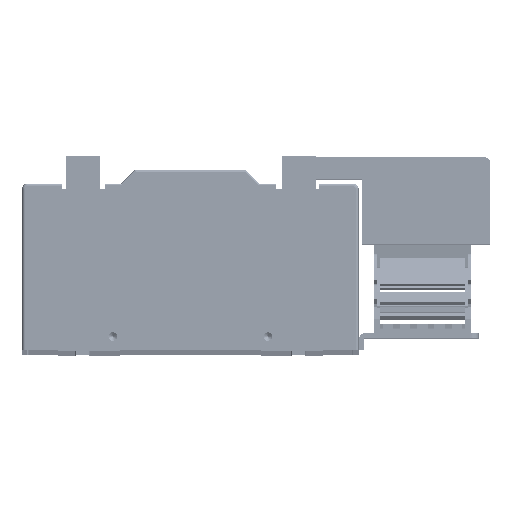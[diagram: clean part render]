
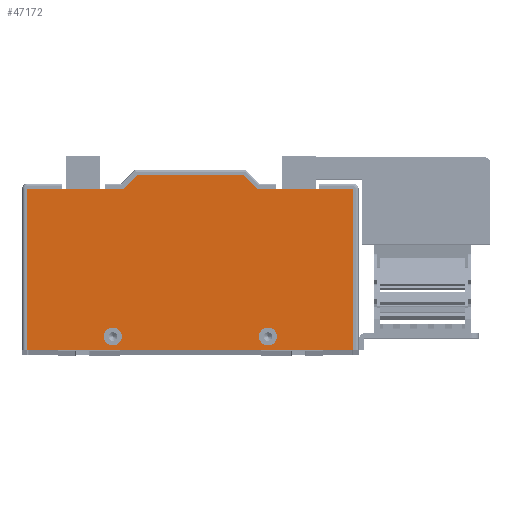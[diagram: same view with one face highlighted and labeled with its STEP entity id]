
A CAD part, top view. The second image highlights one B-rep face of the part: STEP entity #47172.
In plain terms, the highlighted planar face has unit normal (0, 0, 1) as drawn and (0, 0, -1) by its records, which use the part's own axes.
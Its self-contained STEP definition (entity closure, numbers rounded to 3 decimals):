
#46512 = VERTEX_POINT ( 'NONE', #131476 ) ;
#46514 = EDGE_CURVE ( 'NONE', #46512, #46515, #131473, .T. ) ;
#46515 = VERTEX_POINT ( 'NONE', #131464 ) ;
#46641 = ORIENTED_EDGE ( 'NONE', *, *, #46642, .F. ) ;
#46642 = EDGE_CURVE ( 'NONE', #46795, #46851, #131982, .T. ) ;
#46643 = ORIENTED_EDGE ( 'NONE', *, *, #46807, .T. ) ;
#46644 = ORIENTED_EDGE ( 'NONE', *, *, #46645, .F. ) ;
#46645 = EDGE_CURVE ( 'NONE', #46646, #46805, #131973, .T. ) ;
#46646 = VERTEX_POINT ( 'NONE', #131966 ) ;
#46647 = ORIENTED_EDGE ( 'NONE', *, *, #46649, .F. ) ;
#46649 = EDGE_CURVE ( 'NONE', #46729, #46646, #131963, .T. ) ;
#46729 = VERTEX_POINT ( 'NONE', #132211 ) ;
#46744 = VERTEX_POINT ( 'NONE', #132325 ) ;
#46746 = EDGE_CURVE ( 'NONE', #46744, #46747, #132320, .T. ) ;
#46747 = VERTEX_POINT ( 'NONE', #132308 ) ;
#46771 = EDGE_CURVE ( 'NONE', #46773, #46774, #132490, .T. ) ;
#46773 = VERTEX_POINT ( 'NONE', #132483 ) ;
#46774 = VERTEX_POINT ( 'NONE', #132480 ) ;
#46789 = EDGE_CURVE ( 'NONE', #46729, #46773, #132439, .T. ) ;
#46795 = VERTEX_POINT ( 'NONE', #132553 ) ;
#46805 = VERTEX_POINT ( 'NONE', #132511 ) ;
#46807 = EDGE_CURVE ( 'NONE', #46795, #46805, #132505, .T. ) ;
#46812 = EDGE_CURVE ( 'NONE', #46515, #46512, #132614, .T. ) ;
#46814 = EDGE_LOOP ( 'NONE', ( #46905, #46907 ) ) ;
#46820 = ORIENTED_EDGE ( 'NONE', *, *, #46789, .T. ) ;
#46822 = ORIENTED_EDGE ( 'NONE', *, *, #46771, .T. ) ;
#46827 = VERTEX_POINT ( 'NONE', #132578 ) ;
#46830 = EDGE_CURVE ( 'NONE', #46774, #46827, #132698, .T. ) ;
#46846 = ORIENTED_EDGE ( 'NONE', *, *, #46830, .T. ) ;
#46847 = ORIENTED_EDGE ( 'NONE', *, *, #46849, .F. ) ;
#46849 = EDGE_CURVE ( 'NONE', #46851, #46827, #132641, .T. ) ;
#46851 = VERTEX_POINT ( 'NONE', #132759 ) ;
#46903 = ORIENTED_EDGE ( 'NONE', *, *, #46514, .F. ) ;
#46905 = ORIENTED_EDGE ( 'NONE', *, *, #46906, .F. ) ;
#46906 = EDGE_CURVE ( 'NONE', #46747, #46744, #132935, .T. ) ;
#46907 = ORIENTED_EDGE ( 'NONE', *, *, #46746, .F. ) ;
#46908 = EDGE_LOOP ( 'NONE', ( #46846, #46847, #46641, #46643, #46644, #46647, #46820, #46822 ) ) ;
#46985 = EDGE_LOOP ( 'NONE', ( #47173, #46903 ) ) ;
#47172 = ADVANCED_FACE ( 'NONE', ( #133884, #133882, #133879 ), #133877, .F. ) ;
#47173 = ORIENTED_EDGE ( 'NONE', *, *, #46812, .F. ) ;
#131464 = CARTESIAN_POINT ( 'NONE',  ( -130.691, 76.299, 0. ) ) ;
#131466 = DIRECTION ( 'NONE',  ( -1., 0., 0. ) ) ;
#131468 = DIRECTION ( 'NONE',  ( 0., 0., -1. ) ) ;
#131470 = CARTESIAN_POINT ( 'NONE',  ( -125.441, 76.299, 0. ) ) ;
#131471 = AXIS2_PLACEMENT_3D ( 'NONE', #131470, #131468, #131466 ) ;
#131473 = CIRCLE ( 'NONE', #131471, 5.25 ) ;
#131476 = CARTESIAN_POINT ( 'NONE',  ( -120.191, 76.299, 0. ) ) ;
#131957 = DIRECTION ( 'NONE',  ( 1., 0., 0. ) ) ;
#131958 = VECTOR ( 'NONE', #131957, 1000. ) ;
#131960 = CARTESIAN_POINT ( 'NONE',  ( -119.191, -9.701, 0. ) ) ;
#131963 = LINE ( 'NONE', #131960, #131958 ) ;
#131966 = CARTESIAN_POINT ( 'NONE',  ( -119.191, -9.701, 0. ) ) ;
#131970 = DIRECTION ( 'NONE',  ( 0.707, -0.707, 0. ) ) ;
#131971 = VECTOR ( 'NONE', #131970, 1000. ) ;
#131972 = CARTESIAN_POINT ( 'NONE',  ( -111.191, -17.701, 0. ) ) ;
#131973 = LINE ( 'NONE', #131972, #131971 ) ;
#131975 = DIRECTION ( 'NONE',  ( 0.707, 0.707, 0. ) ) ;
#131977 = VECTOR ( 'NONE', #131975, 1000. ) ;
#131980 = CARTESIAN_POINT ( 'NONE',  ( -41.191, -9.701, 0. ) ) ;
#131982 = LINE ( 'NONE', #131980, #131977 ) ;
#132211 = CARTESIAN_POINT ( 'NONE',  ( -175.191, -9.701, 0. ) ) ;
#132308 = CARTESIAN_POINT ( 'NONE',  ( -40.191, 76.299, 0. ) ) ;
#132310 = DIRECTION ( 'NONE',  ( -1., 0., 0. ) ) ;
#132312 = DIRECTION ( 'NONE',  ( 0., 0., -1. ) ) ;
#132314 = CARTESIAN_POINT ( 'NONE',  ( -34.941, 76.299, 0. ) ) ;
#132315 = AXIS2_PLACEMENT_3D ( 'NONE', #132314, #132312, #132310 ) ;
#132320 = CIRCLE ( 'NONE', #132315, 5.25 ) ;
#132325 = CARTESIAN_POINT ( 'NONE',  ( -29.691, 76.299, 0. ) ) ;
#132435 = DIRECTION ( 'NONE',  ( 0., 1., 0. ) ) ;
#132437 = VECTOR ( 'NONE', #132435, 1000. ) ;
#132438 = CARTESIAN_POINT ( 'NONE',  ( -175.191, -17.701, 0. ) ) ;
#132439 = LINE ( 'NONE', #132438, #132437 ) ;
#132480 = CARTESIAN_POINT ( 'NONE',  ( 14.809, 84.299, 0. ) ) ;
#132483 = CARTESIAN_POINT ( 'NONE',  ( -175.191, 84.299, 0. ) ) ;
#132486 = DIRECTION ( 'NONE',  ( 1., 0., 0. ) ) ;
#132487 = VECTOR ( 'NONE', #132486, 1000. ) ;
#132488 = CARTESIAN_POINT ( 'NONE',  ( -175.191, 84.299, 0. ) ) ;
#132490 = LINE ( 'NONE', #132488, #132487 ) ;
#132502 = DIRECTION ( 'NONE',  ( -1., 0., 0. ) ) ;
#132503 = VECTOR ( 'NONE', #132502, 1000. ) ;
#132504 = CARTESIAN_POINT ( 'NONE',  ( 14.809, -17.701, 0. ) ) ;
#132505 = LINE ( 'NONE', #132504, #132503 ) ;
#132511 = CARTESIAN_POINT ( 'NONE',  ( -111.191, -17.701, 0. ) ) ;
#132553 = CARTESIAN_POINT ( 'NONE',  ( -49.191, -17.701, 0. ) ) ;
#132578 = CARTESIAN_POINT ( 'NONE',  ( 14.809, -9.701, 0. ) ) ;
#132609 = DIRECTION ( 'NONE',  ( -1., 0., 0. ) ) ;
#132611 = DIRECTION ( 'NONE',  ( 0., 0., -1. ) ) ;
#132612 = CARTESIAN_POINT ( 'NONE',  ( -125.441, 76.299, 0. ) ) ;
#132613 = AXIS2_PLACEMENT_3D ( 'NONE', #132612, #132611, #132609 ) ;
#132614 = CIRCLE ( 'NONE', #132613, 5.25 ) ;
#132640 = CARTESIAN_POINT ( 'NONE',  ( 14.809, -9.701, 0. ) ) ;
#132641 = LINE ( 'NONE', #132640, #132773 ) ;
#132693 = DIRECTION ( 'NONE',  ( 0., -1., 0. ) ) ;
#132695 = VECTOR ( 'NONE', #132693, 1000. ) ;
#132696 = CARTESIAN_POINT ( 'NONE',  ( 14.809, 84.299, 0. ) ) ;
#132698 = LINE ( 'NONE', #132696, #132695 ) ;
#132759 = CARTESIAN_POINT ( 'NONE',  ( -41.191, -9.701, 0. ) ) ;
#132772 = DIRECTION ( 'NONE',  ( 1., 0., 0. ) ) ;
#132773 = VECTOR ( 'NONE', #132772, 1000. ) ;
#132929 = DIRECTION ( 'NONE',  ( -1., 0., 0. ) ) ;
#132931 = DIRECTION ( 'NONE',  ( 0., 0., -1. ) ) ;
#132932 = CARTESIAN_POINT ( 'NONE',  ( -34.941, 76.299, 0. ) ) ;
#132933 = AXIS2_PLACEMENT_3D ( 'NONE', #132932, #132931, #132929 ) ;
#132935 = CIRCLE ( 'NONE', #132933, 5.25 ) ;
#133870 = DIRECTION ( 'NONE',  ( 1., 0., 0. ) ) ;
#133872 = DIRECTION ( 'NONE',  ( 0., 0., 1. ) ) ;
#133873 = CARTESIAN_POINT ( 'NONE',  ( -175.191, 84.299, 0. ) ) ;
#133875 = AXIS2_PLACEMENT_3D ( 'NONE', #133873, #133872, #133870 ) ;
#133877 = PLANE ( 'NONE',  #133875 ) ;
#133879 = FACE_OUTER_BOUND ( 'NONE', #46908, .T. ) ;
#133882 = FACE_BOUND ( 'NONE', #46814, .T. ) ;
#133884 = FACE_BOUND ( 'NONE', #46985, .T. ) ;
